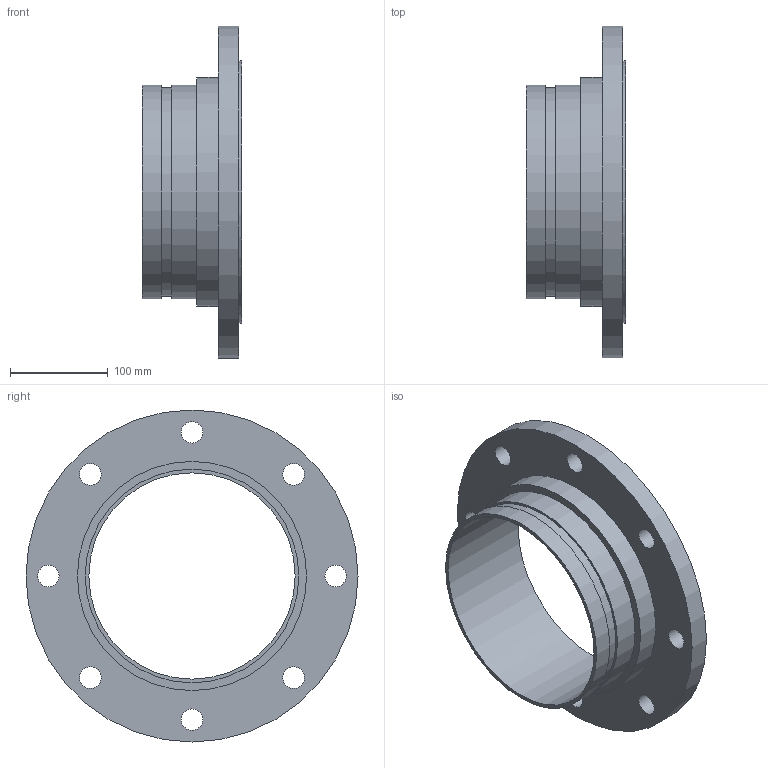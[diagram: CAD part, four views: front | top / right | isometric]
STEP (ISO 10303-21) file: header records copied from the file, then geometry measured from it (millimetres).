
FILE_DESCRIPTION(/* description */ ('VIC FLANGE ADAPTER STYLE 441N','CAx-IF Rec.Pracs.---Representation and Presentation of Product Manufacturing Information (PMI)---4.0---2014-10-13'),/* implementation_level */ '2;1');
FILE_NAME(/* name */ 'C:\Users\kkamble\AppData\Roaming\Autodesk\ApplicationPlugins\Back Up\Victaulic_SS-OGS_Flanged Adapter Nipple_PN10_Style 441N (OGSxFLG)\Victaulic_SS-OGS_Flanged Adapter Nipple_PN10_Style 441N (OGSxFLG)_8 (200).stp',/* time_stamp */ '2020-08-27T09:31:57+05:00',/* author */ ('jbrannon'),/* organization */ ('Victaulic'),/* preprocessor_version */ 'ST-DEVELOPER v17.2',/* originating_system */ 'Autodesk Inventor 2019',/* authorisation */ '');
FILE_SCHEMA (('AP242_MANAGED_MODEL_BASED_3D_ENGINEERING_MIM_LF { 1 0 10303 442 1 1 4 }'));
Length unit declared in the file: inch
Products named in the file (1): 441N-08.0
Bounding box: 101.6 x 340.36 x 340.36 mm (x, y, z)
Volume: 1470409.3 mm3; surface area: 267085.9 mm2
Topology: 1 solids, 1 shells, 22 faces, 59 edges, 44 vertices
Faces by surface type: cylinder 15, plane 7
Full cylindrical faces by diameter (mm): 22.098 x8, 211.557 x1, 214.401 x1, 219.075 x2, 234.95 x1, 269.24 x1, 340.36 x1
Entity records: 929 total; most frequent: DIRECTION 175, CARTESIAN_POINT 143, ORIENTED_EDGE 118, AXIS2_PLACEMENT_3D 80, EDGE_CURVE 59, EDGE_LOOP 45, CIRCLE 44, VERTEX_POINT 44
